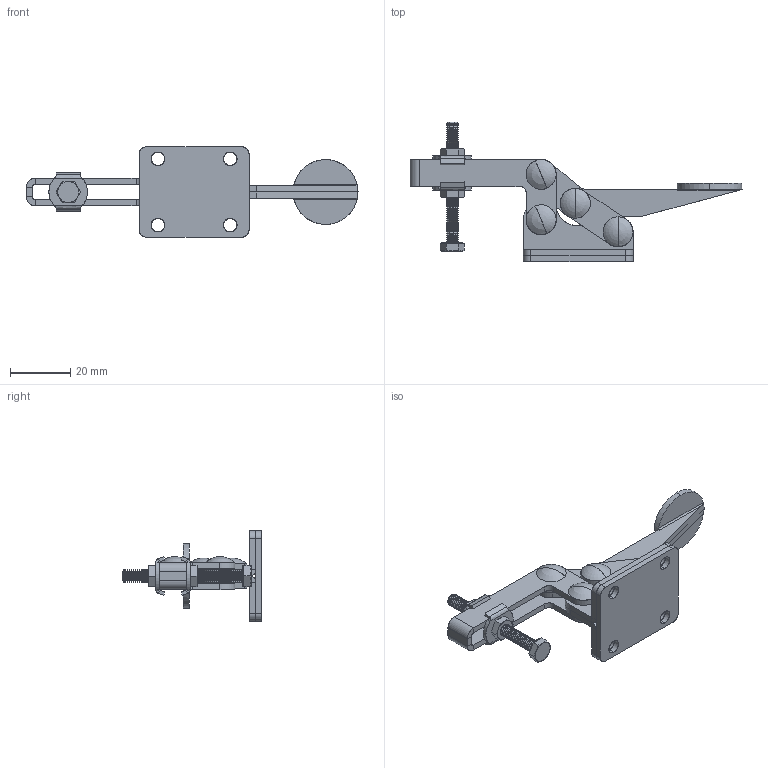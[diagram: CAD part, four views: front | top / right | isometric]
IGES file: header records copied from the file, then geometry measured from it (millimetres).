
Start section: SolidWorks IGES file using analytic representation for surfaces
Global section: file name: \\BARTOP_SV6\share\SOLIDWORKS\工具事業部\坂入用\受け渡し\ISK-030.IGS; native system: SolidWorks 2015; preprocessor: SolidWorks 2015; author: SOLID02; date: 150629.182430; units: millimetre
Bounding box: 110.13 x 46.39 x 30 mm (x, y, z)
Surface area: 17392.7 mm2 (no closed solid volume)
Topology: 0 solids, 0 shells, 703 faces, 6894 edges, 6882 vertices
Faces by surface type: revolution 538, bspline 165
